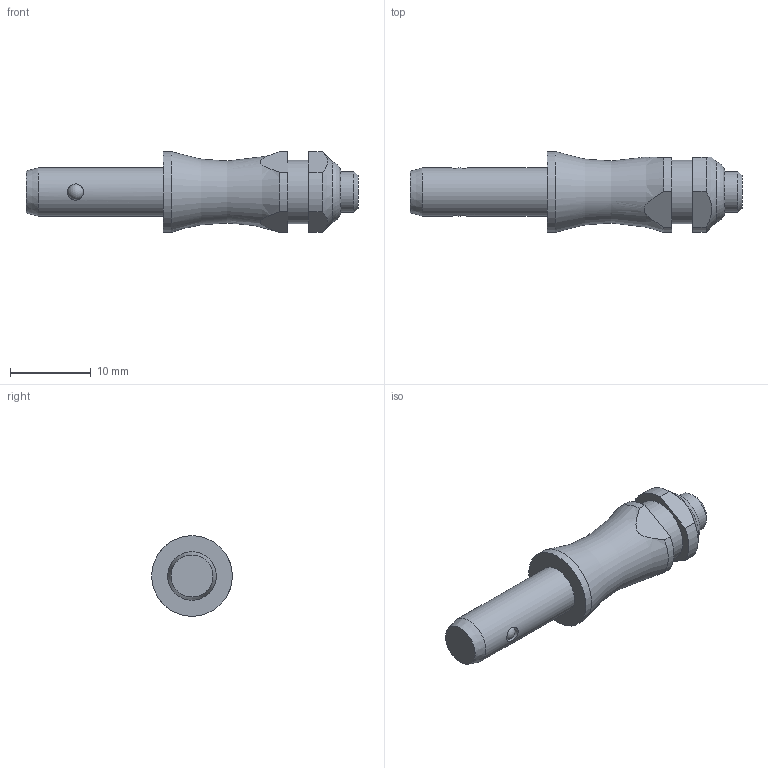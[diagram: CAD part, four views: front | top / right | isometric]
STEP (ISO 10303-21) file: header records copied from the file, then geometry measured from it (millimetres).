
FILE_DESCRIPTION( ( 'STEP AP203' ), '1' );
FILE_NAME( 'C:/Temp/Ganter_Step_05_03_2020/data/3_1/gn113_3/Stainless Steel-Ball lock pin GN 113.3-6-10 (activated).stp', '2020-03-12T08:18:15', ( 'License CC BY-ND 4.0' ), ( 'CADENAS' ), ' ', 'PARTsolutions', ' ' );
FILE_SCHEMA( ( 'CONFIG_CONTROL_DESIGN' ) );
Length unit declared in the file: millimetre
Products named in the file (1): _Stainless Steel-Ball lock pin GN 113.3-6-10 (activated)
Bounding box: 41.15 x 10 x 10 mm (x, y, z)
Volume: 1771.9 mm3; surface area: 1122.3 mm2
Topology: 1 solids, 1 shells, 31 faces, 73 edges, 46 vertices
Faces by surface type: plane 12, cylinder 12, cone 3, torus 2, sphere 2
Full cylindrical faces by diameter (mm): 2 x2, 5 x1, 6 x1, 7.9 x1, 10 x1
Entity records: 962 total; most frequent: CARTESIAN_POINT 298, DIRECTION 134, ORIENTED_EDGE 104, AXIS2_PLACEMENT_3D 58, EDGE_CURVE 52, EDGE_LOOP 48, VERTEX_POINT 40, FACE_OUTER_BOUND 39
